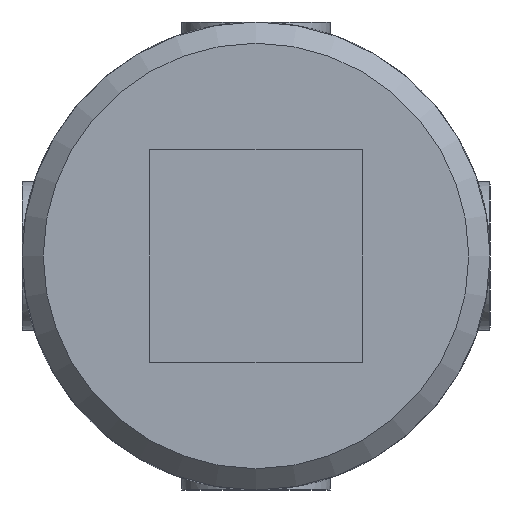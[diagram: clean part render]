
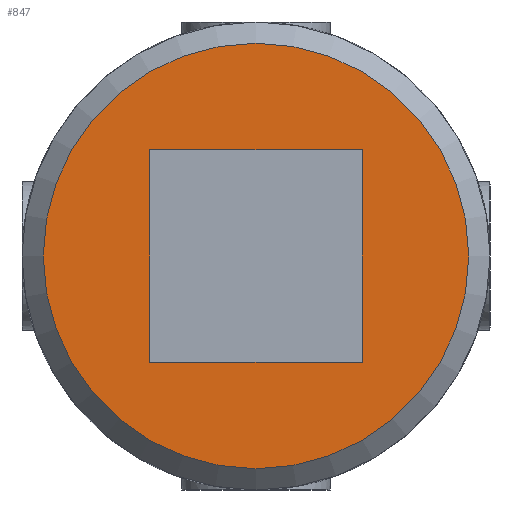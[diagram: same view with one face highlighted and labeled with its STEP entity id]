
A CAD part, front view. The second image highlights one B-rep face of the part: STEP entity #847.
In plain terms, the highlighted planar face has unit normal (0, -1, 0).
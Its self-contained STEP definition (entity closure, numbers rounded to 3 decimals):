
#94=LINE('',#1271,#134);
#98=LINE('',#1294,#138);
#104=LINE('',#1332,#144);
#107=LINE('',#1352,#147);
#134=VECTOR('',#1040,10.);
#138=VECTOR('',#1048,10.);
#144=VECTOR('',#1056,10.);
#147=VECTOR('',#1063,10.);
#174=PLANE('',#923);
#199=FACE_BOUND('',#299,.T.);
#232=FACE_OUTER_BOUND('',#298,.T.);
#298=EDGE_LOOP('',(#681));
#299=EDGE_LOOP('',(#682,#683,#684,#685));
#348=CIRCLE('',#921,10.);
#388=VERTEX_POINT('',#1268);
#389=VERTEX_POINT('',#1270);
#395=VERTEX_POINT('',#1293);
#404=VERTEX_POINT('',#1330);
#411=VERTEX_POINT('',#1407);
#475=EDGE_CURVE('',#389,#388,#94,.T.);
#482=EDGE_CURVE('',#395,#389,#98,.T.);
#492=EDGE_CURVE('',#388,#404,#104,.T.);
#498=EDGE_CURVE('',#404,#395,#107,.T.);
#509=EDGE_CURVE('',#411,#411,#348,.T.);
#681=ORIENTED_EDGE('',*,*,#509,.F.);
#682=ORIENTED_EDGE('',*,*,#475,.T.);
#683=ORIENTED_EDGE('',*,*,#492,.T.);
#684=ORIENTED_EDGE('',*,*,#498,.T.);
#685=ORIENTED_EDGE('',*,*,#482,.T.);
#847=ADVANCED_FACE('',(#232,#199),#174,.F.);
#921=AXIS2_PLACEMENT_3D('',#1408,#1092,#1093);
#923=AXIS2_PLACEMENT_3D('',#1584,#1100,#1101);
#1040=DIRECTION('',(0.,0.,-1.));
#1048=DIRECTION('',(1.,0.,0.));
#1056=DIRECTION('',(-1.,0.,0.));
#1063=DIRECTION('',(0.,0.,1.));
#1092=DIRECTION('center_axis',(0.,1.,0.));
#1093=DIRECTION('ref_axis',(1.,0.,0.));
#1100=DIRECTION('center_axis',(0.,1.,0.));
#1101=DIRECTION('ref_axis',(0.,0.,1.));
#1268=CARTESIAN_POINT('',(5.,-29.5,-5.));
#1270=CARTESIAN_POINT('',(5.,-29.5,5.));
#1271=CARTESIAN_POINT('',(5.,-29.5,2.5));
#1293=CARTESIAN_POINT('',(-5.,-29.5,5.));
#1294=CARTESIAN_POINT('',(-2.5,-29.5,5.));
#1330=CARTESIAN_POINT('',(-5.,-29.5,-5.));
#1332=CARTESIAN_POINT('',(2.5,-29.5,-5.));
#1352=CARTESIAN_POINT('',(-5.,-29.5,-2.5));
#1407=CARTESIAN_POINT('',(-10.,-29.5,0.));
#1408=CARTESIAN_POINT('Origin',(0.,-29.5,0.));
#1584=CARTESIAN_POINT('Origin',(0.,-29.5,0.));
